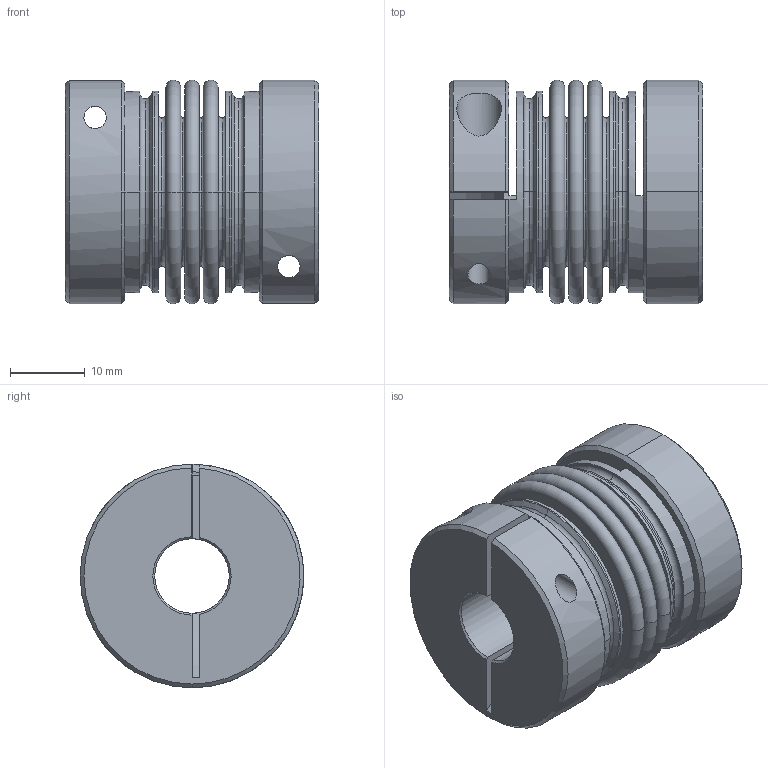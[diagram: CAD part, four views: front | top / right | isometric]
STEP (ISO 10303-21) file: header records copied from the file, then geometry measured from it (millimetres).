
FILE_DESCRIPTION (( 'STEP AP214' ), '1' );
FILE_NAME ('604317_Kupplung AEKN 303-10-10 L34.STEP', '2016-03-22T07:57:44', ( 'jürgenl' ), ( 'Microsoft' ), 'SwSTEP 2.0', 'SolidWorks 2015', '' );
FILE_SCHEMA (( 'AUTOMOTIVE_DESIGN' ));
Length unit declared in the file: millimetre
Products named in the file (3): Nabe_AEKN_303_DIA_10_00; 1012534__3006535__Metallbalg_AEKN_303; 604317_Kupplung AEKN 303-10-10 L34
Assembly tree (3 placements, depth 2):
  604317_Kupplung AEKN 303-10-10 L34
    1012534__3006535__Metallbalg_AEKN_303
    Nabe_AEKN_303_DIA_10_00  x2
Bounding box: 34 x 30 x 30 mm (x, y, z)
Volume: 13882.2 mm3; surface area: 13950.4 mm2
Topology: 3 solids, 3 shells, 152 faces, 356 edges, 226 vertices
Faces by surface type: torus 52, plane 42, cylinder 36, cone 22
Entity records: 3839 total; most frequent: DIRECTION 638, CARTESIAN_POINT 636, ORIENTED_EDGE 484, AXIS2_PLACEMENT_3D 293, EDGE_CURVE 242, CIRCLE 179, VERTEX_POINT 153, EDGE_LOOP 131
